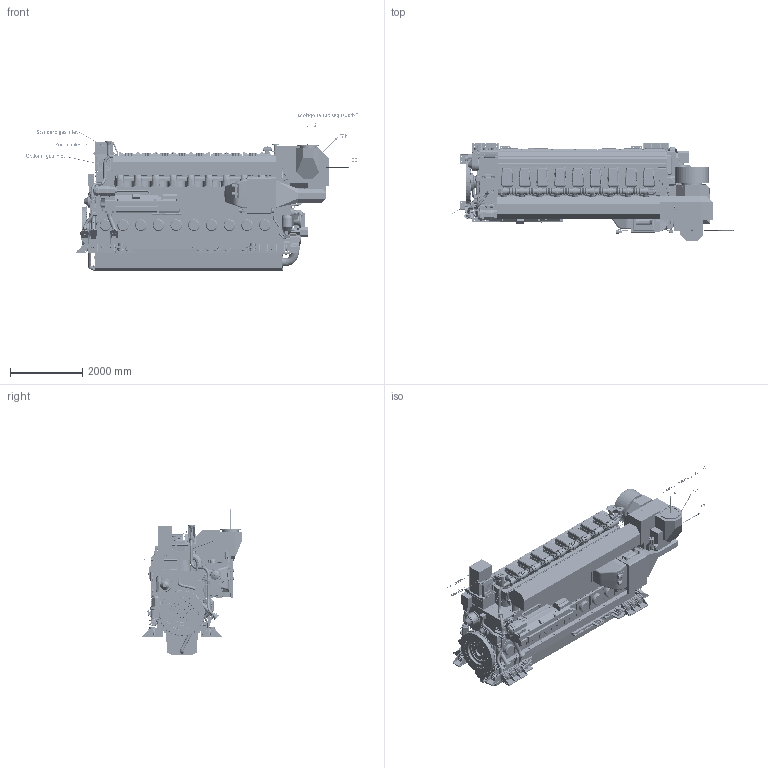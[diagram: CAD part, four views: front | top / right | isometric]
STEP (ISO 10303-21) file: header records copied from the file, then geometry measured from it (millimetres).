
FILE_DESCRIPTION(/* description */ (''),/* implementation_level */ '2;1');
FILE_NAME(/* name */ 'DAAF384922_A.stp',/* time_stamp */ '2021-12-30T13:12:00+02:00',/* author */ (''),/* organization */ (''),/* preprocessor_version */ 'ST-DEVELOPER v16.7',/* originating_system */ 'SIEMENS PLM Software NX 1915',/* authorisation */ '');
FILE_SCHEMA (('AUTOMOTIVE_DESIGN { 1 0 10303 214 3 1 1 1 }'));
Products named in the file (113): 001240145-A_STEEL PLATE; 001240140-A_STEEL PLATE; 001240143-A_STEEL PLATE; PAAC000063--_HEXAGON HEAD SCREW; 0046L028001-F_RUBBER ELEMENT; 001210004-B_0005_STEEL SHEET; 001860179-A_HOLLOW BAR; 001240079--_STEEL PLATE; 001510045-A_ROUND BAR; PAAF363131--_PAAF124545 COMPR 4MM; PAAF363124--_PAAF124545 COMPR 5MM; PAAC000444--_HEXAGON HEAD BOLT; PAAF559689--_COVER; PABA066964--_Double wall gas vent system; PAAF906213--_NITROGEN GAS PIPE; PAAF975683--_Gas feed pipe double wall; PAAF078241--_COVER; PAAF977365--_Electrical equipment for side cover; PAAF975946--_gas pipe between cylinders; PAAF975926--_main gas admission valve; PAAF238216--_CRANKSHAFT; PAAF245469--_LUBE OIL MODULE; PAAF078708--_ACTUATOR; PABA142427--_Control air system WG_BP TCF; PAAF211503--_WASTE GATE _ BY-PASS; PAAF277184--_TURBOCHARGER; PAAF093447--_SEPARATOR CONNECTIONS; PAAF977184--_Control air system WG_BP system TC FE; PAAF675626--_OIL MIST DETECTOR; PABA135981--_Electrical equipment for lube oil module_ TCFE; PAAF270351--_EQUIPMENT; PAAF909498--_LOCAL CONTROL PANEL; PAAF906214--_ELECTRICAL EQUIPMENT; PABA065520--_Counter flange for HT preheating_ connection 406; PAAF243367--_GOVERNOR; PAAF486326--_AIR SYSTEM; PAAF721110--_DRAIN PIPE; PAAF776393--_AIR INLET PIPE; PAAF681233--_AIR INLET PIPE; PAAF202746--_CLEANING DEVICE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
Assembly tree (305 placements, depth 6):
  DAAF384922_A-Outline drawing
    PABA332444--_Flywheel
    PABA332349--_W9L34DFC-TCF_MODEL
      PABA036864--_Cylinder heads multiducts cylinder liner
      PAAF063633--_ENGINE BLOCK
      PAAF291916--_INTERMEDIATE GEAR
      PAAF906204--_SHUT-DOWN MECHANISM
      PAAF063771--_COVERS
      PAAF895907--_COVERS
      PAAF978290--_Covers top shields 9L
      PAAF976976--_Cylinder head covers 9L
      PAAF064319--_COVERS
      PAAF074388--_END COVER
      PAAF243671--_PUMP COVER
      PAAF243623--_FUEL PIPES
      PAAF397145--_COVERS
      PAAF247479--_FRAME
      PAAF087082--_A_LEAK FUEL PIPES
      PAAF087111--_LEAK FUEL SYSTEM
      PAAF087114--_LEAK FUEL SYSTEM
      PAAF087122--_LEAK FUEL PIPES
      PAAF078074--_TURNING DEVICE
      PAAF247485--_LUBRICATING OIL PUMP
      PAAF247483--_OIL PIPE
      PAAF087136--_LUBRICATING OIL PIPES
      PAAF243686--_CENTRIFUGAL FILTER
      PAAF087145--_OIL SUCTION PIPE
      PAAF074445--_WET SUMP
      PAAF271372--_MOTOR
      PABA041419--_Lube oil system forr ABBA155 in free end
      PAAF093585--_STARTING AIR PIPES
      PAAF093819--_WATER CONNECTION
      PAAF068492--_AIR VENT SYSTEM
      PAAF078619--_LT-WATER PIPES
      PAAF078621--_LT-WATER PIPES
      PAAF671497--_AIR VENT PIPE
      PAAF322125--_TURBOCHARGER BRACKET
      PAAF066759--_INSULATION BOX
      PAAF683775--_AIR INLET BOX
      PAAF280989--_COVERS
      PAAF202746--_CLEANING DEVICE
      PAAF681233--_AIR INLET PIPE
      PAAF776393--_AIR INLET PIPE
      PAAF721110--_DRAIN PIPE
      PAAF486326--_AIR SYSTEM
      PAAF243367--_GOVERNOR
      PABA065520--_Counter flange for HT preheating_ connection 406
      PAAF906214--_ELECTRICAL EQUIPMENT
      PAAF909498--_LOCAL CONTROL PANEL
      PAAF270351--_EQUIPMENT
      PABA135981--_Electrical equipment for lube oil module_ TCFE
      PAAF675626--_OIL MIST DETECTOR
      PAAF977184--_Control air system WG_BP system TC FE
      PAAF093447--_SEPARATOR CONNECTIONS
      PAAF277184--_TURBOCHARGER
      PAAF211503--_WASTE GATE _ BY-PASS
      PABA142427--_Control air system WG_BP TCF
      PAAF078708--_ACTUATOR
      PAAF245469--_LUBE OIL MODULE
      PAAF238216--_CRANKSHAFT
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Bounding box: 9181.01 x 2741.77 x 4366.18 mm (x, y, z)
Volume: 18598858844 mm3; surface area: 283911297.5 mm2
Topology: 843 solids, 855 shells, 27063 faces, 66681 edges, 42814 vertices
Faces by surface type: plane 13341, cylinder 7556, bspline 2248, cone 2121, extrusion 877, torus 862, sphere 55, revolution 3
Full cylindrical faces by diameter (mm): 0.7 x2, 1 x9, 2 x2, 3 x3, 4.9 x1, 6 x14, 6.9 x1, 7 x4, 8 x27, 8.1 x1, 9 x6, 9.7 x1, 10 x3, 11 x8, 11.908 x1, 12 x42, 12.3 x1, 13.2 x4, 13.5 x4, 14 x261, 14.5 x1, 14.989 x2, 15 x8, 15.5 x36, 15.6 x4, 15.7 x4, 16 x114, 16.376 x1, 16.8 x1, 17.5 x2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
Entity records: 786979 total; most frequent: CARTESIAN_POINT 342318, ORIENTED_EDGE 90400, DIRECTION 83034, EDGE_CURVE 45200, VERTEX_POINT 30258, AXIS2_PLACEMENT_3D 28603, VECTOR 25825, LINE 24948
